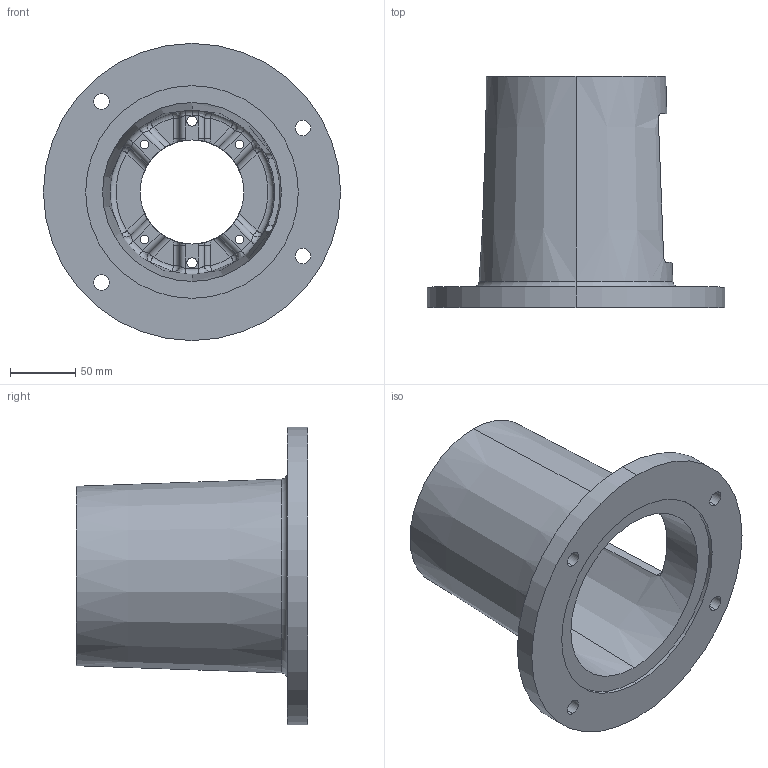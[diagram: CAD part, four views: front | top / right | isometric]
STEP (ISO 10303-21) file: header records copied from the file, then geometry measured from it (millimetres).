
FILE_DESCRIPTION (( 'STEP AP203' ), '1' );
FILE_NAME ('E7007080M.STEP', '2014-11-04T13:26:14', ( '' ), ( '' ), 'SwSTEP 2.0', 'SolidWorks 2014', '' );
FILE_SCHEMA (( 'CONFIG_CONTROL_DESIGN' ));
Length unit declared in the file: inch
Products named in the file (1): E7007080M
Bounding box: 228.6 x 177.8 x 228.6 mm (x, y, z)
Volume: 867625.6 mm3; surface area: 216590 mm2
Topology: 1 solids, 1 shells, 153 faces, 388 edges, 227 vertices
Faces by surface type: cylinder 58, plane 32, bspline 24, torus 23, sphere 12, cone 4
Entity records: 6533 total; most frequent: CARTESIAN_POINT 2915, ORIENTED_EDGE 752, DIRECTION 742, EDGE_CURVE 376, AXIS2_PLACEMENT_3D 320, VERTEX_POINT 227, CIRCLE 190, EDGE_LOOP 179
